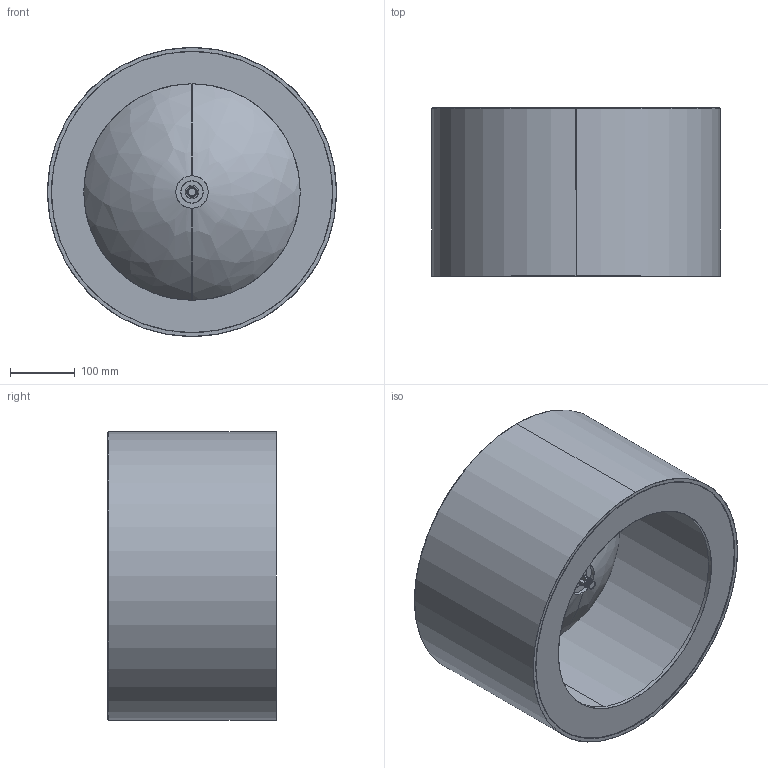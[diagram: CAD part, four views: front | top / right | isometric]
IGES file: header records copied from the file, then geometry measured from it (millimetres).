
Start section: SolidWorks IGES file using analytic representation for surfaces
Global section: file name: \\Ut-server\UT_DOCUMENTI\030_PRODUZIONE MAKRO\SW\ESPORTAZIONE_FILE_3D\IGES\CUP26_CORIAN.IGS; native system: SolidWorks 2012; preprocessor: SolidWorks 2012; author: Administrator; date: 060411.015135; units: millimetre
Bounding box: 446 x 260 x 446 mm (x, y, z)
Surface area: 1178226.8 mm2 (no closed solid volume)
Topology: 0 solids, 0 shells, 63 faces, 1451 edges, 1451 vertices
Faces by surface type: revolution 37, bspline 26
